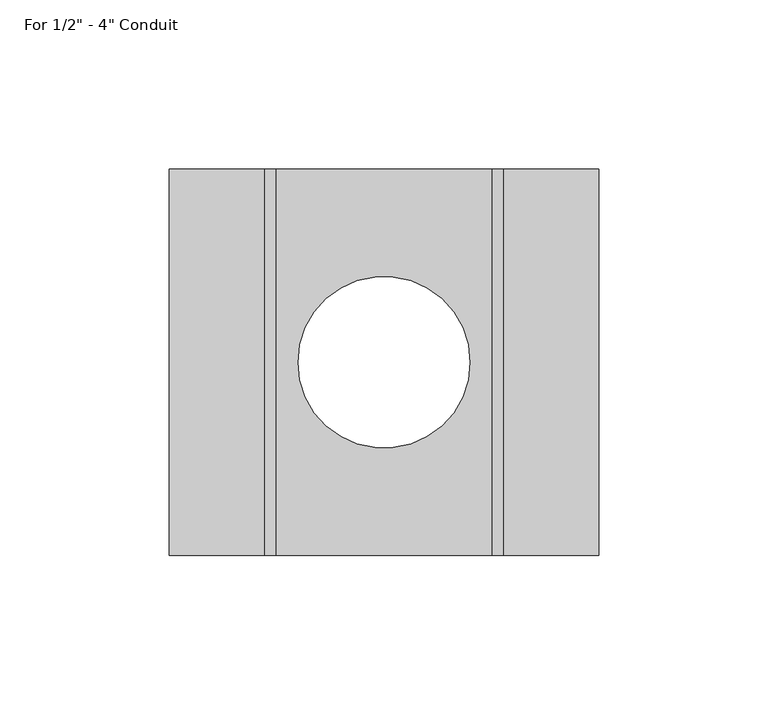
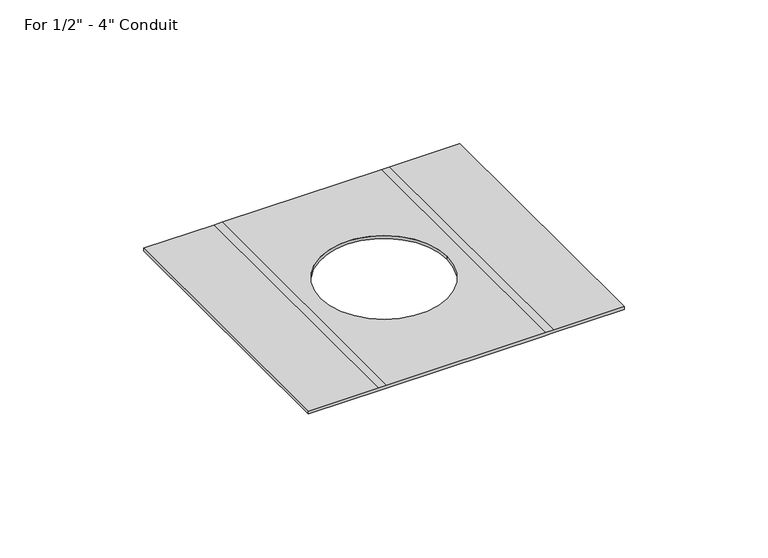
"""IFC4 building model written with IfcOpenShell, lengths in millimetres: electric appliance geometry."""

from ifc_helpers import new_model, si_unit, frame, origin, origin_with_axes, place, context, project, spatial, polyline, circle_curve, source, transform, mapped, element, save
from ifc_brep_helpers import plane_surface, revolved_surface, advanced_brep


def electric_appliance_c7009005(model_context):
    return source(origin(), model_context, "Body", "AdvancedBrep", [
        advanced_brep(
        [(63.5, 57.15, 0.0), (34.1669661, 57.15, 0.0), (30.9930804, 57.15, 0.0), (-30.9930804, 57.15, 0.0), (-34.1669661, 57.15, 0.0), (-63.5, 57.15, 0.0), (-63.5, 57.15, 1.1938), (-35.1738857, 57.15, 1.1938), (-32.0, 57.15, 1.1938), (32.0, 57.15, 1.1938), (35.1738857, 57.15, 1.1938), (63.5, 57.15, 1.1938), (63.5, -57.15, 0.0), (63.5, -57.15, 1.1938), (35.1738857, -57.15, 1.1938), (32.0, -57.15, 1.1938), (-32.0, -57.15, 1.1938), (-35.1738857, -57.15, 1.1938), (-63.5, -57.15, 1.1938), (-63.5, -57.15, 0.0), (-34.1669661, -57.15, 0.0), (-30.9930804, -57.15, 0.0), (30.9930804, -57.15, 0.0), (34.1669661, -57.15, 0.0), (-25.4, 0.0, 0.0), (25.4, 0.0, 0.0), (25.4, 0.0, 1.1938), (-25.4, 0.0, 1.1938)],
        [
            (0, 1),
            (1, 2),
            (2, 3),
            (3, 4),
            (4, 5),
            (5, 6),
            (6, 7),
            (7, 8),
            (8, 9),
            (9, 10),
            (10, 11),
            (11, 0),
            (12, 13),
            (13, 14),
            (14, 15),
            (15, 16),
            (16, 17),
            (17, 18),
            (18, 19),
            (19, 20),
            (20, 21),
            (21, 22),
            (22, 23),
            (23, 12),
            (1, 23),
            (22, 2),
            (3, 21),
            (20, 4),
            (5, 19),
            (18, 6),
            (7, 17),
            (16, 8),
            (9, 15),
            (14, 10),
            (11, 13),
            (12, 0),
            (24, 25, circle_curve(origin_with_axes(), 25.4)),
            (25, 24, circle_curve(origin_with_axes(), 25.4)),
            (26, 27, circle_curve(frame((0.0, 0.0, 1.1938), z_axis=(0.0, 0.0, -1.0), x_axis=(1.0, 0.0, 0.0)), 25.4)),
            (27, 26, circle_curve(frame((0.0, 0.0, 1.1938), z_axis=(0.0, 0.0, -1.0), x_axis=(1.0, 0.0, 0.0)), 25.4)),
            (26, 25),
            (24, 27),
        ],
        [
            plane_surface(frame((34.1669661, 57.15, 0.0), z_axis=(0.0, 1.0, 0.0), x_axis=(-1.0, 0.0, 0.0))),
            plane_surface(frame((34.1669661, -57.15, 0.0), z_axis=(0.0, -1.0, 0.0), x_axis=(1.0, 0.0, 0.0))),
            plane_surface(frame((34.1669661, 57.15, 0.0), z_axis=(-2.0670725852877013e-12, 0.0, -1.0), x_axis=(0.0, -1.0, 0.0))),
            plane_surface(frame((-30.9930804, 57.15, 0.0), z_axis=(2.0737362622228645e-12, 0.0, -1.0), x_axis=(0.0, -1.0, 0.0))),
            plane_surface(frame((-63.5, 57.15, 0.0), z_axis=(-1.0, 0.0, 0.0), x_axis=(0.0, -1.0, 0.0))),
            plane_surface(frame((-35.1738857, 57.15, 1.1938), z_axis=(1.221118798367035e-12, 0.0, 1.0), x_axis=(0.0, -1.0, 0.0))),
            plane_surface(frame((32.0, 57.15, 1.1938), z_axis=(-1.2271161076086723e-12, 0.0, 1.0), x_axis=(0.0, -1.0, 0.0))),
            plane_surface(frame((63.5, 57.15, 1.1938), z_axis=(1.0, 0.0, 0.0), x_axis=(0.0, -1.0, 0.0))),
            plane_surface(frame((63.5, 57.15, 0.0), z_axis=(0.0, 0.0, -1.0), x_axis=(0.0, -1.0, 0.0))),
            plane_surface(frame((30.9930804, 57.15, 0.0), z_axis=(0.0, 0.0, -1.0), x_axis=(0.0, -1.0, 0.0))),
            plane_surface(frame((-34.1669661, 57.15, 0.0), z_axis=(0.0, 0.0, -1.0), x_axis=(0.0, -1.0, 0.0))),
            plane_surface(frame((-63.5, 57.15, 1.1938), z_axis=(0.0, 0.0, 1.0), x_axis=(0.0, -1.0, 0.0))),
            plane_surface(frame((-32.0, 57.15, 1.1938), z_axis=(0.0, 0.0, 1.0), x_axis=(0.0, -1.0, 0.0))),
            plane_surface(frame((35.1738857, 57.15, 1.1938), z_axis=(0.0, 0.0, 1.0), x_axis=(0.0, -1.0, 0.0))),
            revolved_surface(polyline([(25.4, 0.0, 1.1938), (25.4, 0.0, 0.0)]), (0.0, 0.0, 0.0), (0.0, 0.0, 1.0)),
        ],
        [
            (0, [[1, 2, 3, 4, 5, 6, 7, 8, 9, 10, 11, 12]]),
            (1, [[13, 14, 15, 16, 17, 18, 19, 20, 21, 22, 23, 24]]),
            (2, [[-2, 25, -23, 26]]),
            (3, [[-4, 27, -21, 28]]),
            (4, [[-6, 29, -19, 30]]),
            (5, [[-8, 31, -17, 32]]),
            (6, [[-10, 33, -15, 34]]),
            (7, [[-12, 35, -13, 36]]),
            (8, [[-1, -36, -24, -25]]),
            (9, [[-3, -26, -22, -27], [37, 38]]),
            (10, [[-5, -28, -20, -29]]),
            (11, [[-7, -30, -18, -31]]),
            (12, [[-9, -32, -16, -33], [39, 40]]),
            (13, [[-11, -34, -14, -35]]),
            (14, [[41, -37, 42, -39]]),
            (14, [[-41, -40, -42, -38]]),
        ],
    ),
    ])


if __name__ == "__main__":
    model = new_model("IFC4")
    model_context = context("Model", 3, world=origin())
    ifc_project = project(units=[si_unit("LENGTHUNIT", "METRE", prefix="MILLI")], contexts=[model_context])
    site = spatial("IfcSite", under=ifc_project)
    building = spatial("IfcBuilding", under=site)
    placement = place(None, origin())
    electric_appliance_shape = electric_appliance_c7009005(model_context)
    element("IfcElectricAppliance", 1, ObjectType="Clamp-Conduit-Cablofil : For 1/2\" - 4\" Conduit", at=placement, inside=building, context=model_context, shape_type="MappedRepresentation", body=[
        mapped(electric_appliance_shape, transform((0.0, 0.0, 0.0), x_axis=(1.0, 0.0, 0.0), y_axis=(0.0, 1.0, 0.0), z_axis=(0.0, 0.0, 1.0))),
    ])
    save(model, "model.ifc")
